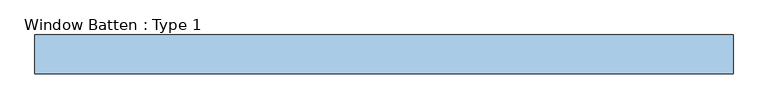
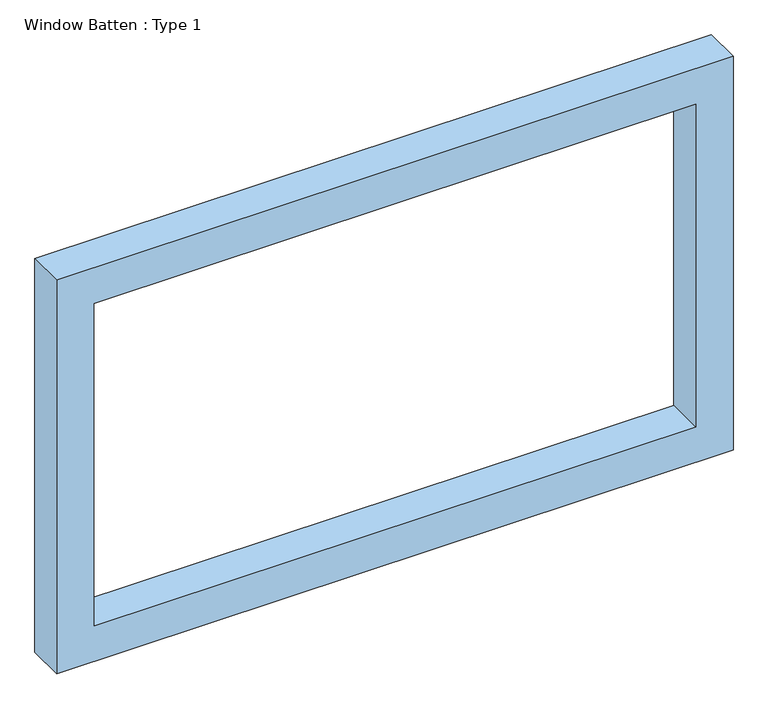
"""IFC4 building model written with IfcOpenShell, lengths in millimetres: window geometry, Window Batten : Type 1."""

import ifcopenshell
import ifcopenshell.guid

model = None  # the IFC model being written
_history = None  # IfcOwnerHistory: only IFC2X3 demands one
_inside = {}  # id of a spatial element -> (the spatial element, [elements in it])
_under = {}  # id of a project, library or spatial element -> (it, [spatial elements below it])
_declared = {}  # id of a project -> (the project, [libraries it declares])
_typed = {}  # id of a type object -> (the type object, [elements of that type])
_made_of = {}  # id of a material, layer set ... -> (it, [elements and type objects made of it])


def new_model(schema):
    """Start an empty IFC model of exactly this schema.

    Asked for "IFC4X3", IfcOpenShell would pick the latest addendum, in which some entities
    have other attributes; the version numbers below select the first issue.
    IFC2X3 requires an IfcOwnerHistory on every rooted entity: one is made here for all.
    """
    global model, _history
    if schema == "IFC4X3":
        model = ifcopenshell.file(schema_version=(4, 3, 0, 0))
    else:
        model = ifcopenshell.file(schema=schema)
    _inside.clear()
    _under.clear()
    _declared.clear()
    _typed.clear()
    _made_of.clear()
    _history = None
    if model.schema == "IFC2X3":
        org = make("IfcOrganization", Name="unknown")
        user = make(
            "IfcPersonAndOrganization",
            ThePerson=make("IfcPerson", FamilyName="unknown"),
            TheOrganization=org,
        )
        app = make(
            "IfcApplication",
            ApplicationDeveloper=org,
            Version="unknown",
            ApplicationFullName="unknown",
            ApplicationIdentifier="unknown",
        )
        _history = make(
            "IfcOwnerHistory",
            OwningUser=user,
            OwningApplication=app,
            ChangeAction="ADDED",
            CreationDate=0,
        )
    return model


def make(cls, **values):
    """One entity of the class cls with the attributes given. An attribute that is None is left unset."""
    return model.create_entity(
        cls, **{name: value for name, value in values.items() if value is not None}
    )


def rooted(cls, **values):
    """An entity with a GlobalId (a new one), such as an element, a storey or a relation."""
    return make(cls, GlobalId=ifcopenshell.guid.new(), OwnerHistory=_history, **values)


def si_unit(unit_type, name, prefix=None):
    """IfcSIUnit, for example si_unit("LENGTHUNIT", "METRE", prefix="MILLI")."""
    return make("IfcSIUnit", UnitType=unit_type, Prefix=prefix, Name=name)


def assignment(units):
    """IfcUnitAssignment: the units of a project."""
    return None if units is None else make("IfcUnitAssignment", Units=units)


def point(xyz):
    """IfcCartesianPoint."""
    return None if xyz is None else make("IfcCartesianPoint", Coordinates=xyz)


def direction(xyz):
    """IfcDirection."""
    return None if xyz is None else make("IfcDirection", DirectionRatios=xyz)


def frame(location, z_axis=None, x_axis=None):
    """IfcAxis2Placement3D, a coordinate frame: its origin and axes. An axis left out is left unset."""
    return make(
        "IfcAxis2Placement3D",
        Location=point(location),
        Axis=direction(z_axis),
        RefDirection=direction(x_axis),
    )


def origin():
    """The frame at (0, 0, 0) with its axes left unset."""
    return frame((0.0, 0.0, 0.0))


def place(relative_to, where):
    """IfcLocalPlacement: puts the frame where relative to a parent placement (None: the world)."""
    return make(
        "IfcLocalPlacement", PlacementRelTo=relative_to, RelativePlacement=where
    )


def context(
    kind, dimensions, precision=None, world=None, true_north=None, identifier=None
):
    """IfcGeometricRepresentationContext, for example the 3D "Model" context."""
    return make(
        "IfcGeometricRepresentationContext",
        ContextIdentifier=identifier,
        ContextType=kind,
        CoordinateSpaceDimension=dimensions,
        Precision=precision,
        WorldCoordinateSystem=world,
        TrueNorth=true_north,
    )


def project(units=None, contexts=None):
    """IfcProject with its units and contexts."""
    return rooted(
        "IfcProject",
        Name="project",
        RepresentationContexts=contexts,
        UnitsInContext=assignment(units),
    )


def spatial(cls, under=None, at=None, **own):
    """A site, building, storey or space (cls), placed at a placement, below another one or the project."""
    s = rooted(cls, ObjectPlacement=at, **own)
    if under is not None:
        _under.setdefault(under.id(), (under, []))[1].append(s)
    return s


def polyline(points):
    """IfcPolyline through the points."""
    return make("IfcPolyline", Points=[point(p) for p in points])


def outline(outer, holes=None, kind="AREA"):
    """IfcArbitraryClosedProfileDef: a profile drawn as a closed curve; with holes, ...WithVoids."""
    if holes is None:
        return make("IfcArbitraryClosedProfileDef", ProfileType=kind, OuterCurve=outer)
    return make(
        "IfcArbitraryProfileDefWithVoids",
        ProfileType=kind,
        OuterCurve=outer,
        InnerCurves=holes,
    )


def extrude(swept, where, along, depth):
    """IfcExtrudedAreaSolid: the profile swept, set in the frame where, extruded along a direction by depth."""
    return make(
        "IfcExtrudedAreaSolid",
        SweptArea=swept,
        Position=where,
        ExtrudedDirection=direction(along),
        Depth=depth,
    )


def shape(context_of_items, identifier, shape_type, items):
    """IfcShapeRepresentation: the items that make up one representation, for example the "Body"."""
    return make(
        "IfcShapeRepresentation",
        ContextOfItems=context_of_items,
        RepresentationIdentifier=identifier,
        RepresentationType=shape_type,
        Items=items,
    )


def source(mapping_origin, context_of_items, identifier, shape_type, items):
    """IfcRepresentationMap: a shape defined once, which mapped items show again and again."""
    return make(
        "IfcRepresentationMap",
        MappingOrigin=mapping_origin,
        MappedRepresentation=shape(context_of_items, identifier, shape_type, items),
    )


def transform(
    local_origin,
    x_axis=None,
    y_axis=None,
    z_axis=None,
    scale=None,
    scale2=None,
    scale3=None,
    uniform=True,
):
    """IfcCartesianTransformationOperator3D, or its non-uniform kind. x_axis, y_axis, z_axis: its Axis1, 2, 3."""
    if uniform:
        return make(
            "IfcCartesianTransformationOperator3D",
            Axis1=direction(x_axis),
            Axis2=direction(y_axis),
            LocalOrigin=point(local_origin),
            Scale=scale,
            Axis3=direction(z_axis),
        )
    return make(
        "IfcCartesianTransformationOperator3DnonUniform",
        Axis1=direction(x_axis),
        Axis2=direction(y_axis),
        LocalOrigin=point(local_origin),
        Scale=scale,
        Axis3=direction(z_axis),
        Scale2=scale2,
        Scale3=scale3,
    )


def mapped(mapping_source, mapping_target):
    """IfcMappedItem: shows the shape of a source again, moved by a transform."""
    return make(
        "IfcMappedItem", MappingSource=mapping_source, MappingTarget=mapping_target
    )


def made_of(thing, what):
    """Note that an element or type object is made of a material, layer set ...; save() writes the relation."""
    if what is not None:
        _made_of.setdefault(what.id(), (what, []))[1].append(thing)
    return thing


def element(
    cls,
    number,
    at=None,
    inside=None,
    cuts=None,
    type_object=None,
    material=None,
    context=None,
    identifier="Body",
    shape_type=None,
    held_by="IfcProductDefinitionShape",
    body=None,
    shapes=None,
    **own,
):
    """One element of the class cls, such as IfcWall. Its Tag is "e" and its number.

    at: its placement. inside: the storey or other place that contains it. cuts: it is an
    opening in that element (IfcRelVoidsElement). A single representation is given by context,
    identifier, shape_type and body (its items); several are given by shapes. held_by: the class
    of the entity that holds the representations. save() writes the other relations.
    """
    e = rooted(cls, Tag="e%d" % number, ObjectPlacement=at, **own)
    if body is not None:
        shapes = [shape(context, identifier, shape_type, body)]
    if shapes is not None:
        e.Representation = make(held_by, Representations=shapes)
    if inside is not None:
        _inside.setdefault(inside.id(), (inside, []))[1].append(e)
    if cuts is not None:
        rooted(
            "IfcRelVoidsElement", RelatingBuildingElement=cuts, RelatedOpeningElement=e
        )
    if type_object is not None:
        _typed.setdefault(type_object.id(), (type_object, []))[1].append(e)
    return made_of(e, material)


def aggregate(whole, parts):
    """IfcRelAggregates: a whole, such as a stair, and the parts it consists of."""
    return rooted("IfcRelAggregates", RelatingObject=whole, RelatedObjects=parts)


def save(model, path):
    """Write the relations noted so far, then the file.

    IfcRelAggregates (storeys below a building ...), IfcRelContainedInSpatialStructure (elements
    in a storey), IfcRelDefinesByType, IfcRelAssociatesMaterial and IfcRelDeclares: one each for
    every whole, place, type object, material and project.
    """
    for whole, parts in _under.values():
        aggregate(whole, parts)
    for where, things in _inside.values():
        rooted(
            "IfcRelContainedInSpatialStructure",
            RelatedElements=things,
            RelatingStructure=where,
        )
    for kind, things in _typed.values():
        rooted("IfcRelDefinesByType", RelatedObjects=things, RelatingType=kind)
    for what, things in _made_of.values():
        rooted("IfcRelAssociatesMaterial", RelatedObjects=things, RelatingMaterial=what)
    for by, libraries in _declared.values():
        rooted("IfcRelDeclares", RelatingContext=by, RelatedDefinitions=libraries)
    model.write(path)


def window_batten_type_1_f037d73b(model_context):
    return source(origin(), model_context, "Body", "SweptSolid", [
        extrude(outline(polyline([(2708.8484214, -1676.6141009), (491.8162847, -1676.6141009), (491.8162847, 1926.6141009), (2708.8484214, 1926.6141009), (2708.8484214, -1676.6141009)]), holes=[polyline([(2508.8484214, -1476.6141009), (2508.8484214, 1726.6141009), (691.8162847, 1726.6141009), (691.8162847, -1476.6141009), (2508.8484214, -1476.6141009)])]), frame((0.0, -310.0, 0.0), z_axis=(0.0, 1.0, 0.0), x_axis=(0.0, 0.0, 1.0)), (0.0, 0.0, 1.0), 200.0),
    ])


if __name__ == "__main__":
    model = new_model("IFC4")
    model_context = context("Model", 3, world=origin())
    ifc_project = project(units=[si_unit("LENGTHUNIT", "METRE", prefix="MILLI")], contexts=[model_context])
    site = spatial("IfcSite", under=ifc_project)
    building = spatial("IfcBuilding", under=site)
    placement = place(None, origin())
    window_batten_type_1_shape = window_batten_type_1_f037d73b(model_context)
    element("IfcWindow", 1, ObjectType="Window Batten : Type 1", at=placement, inside=building, context=model_context, shape_type="MappedRepresentation", body=[
        mapped(window_batten_type_1_shape, transform((0.0, 0.0, 0.0), x_axis=(1.0, 0.0, 0.0), y_axis=(0.0, 1.0, 0.0), z_axis=(0.0, 0.0, 1.0))),
    ])
    save(model, "model.ifc")
